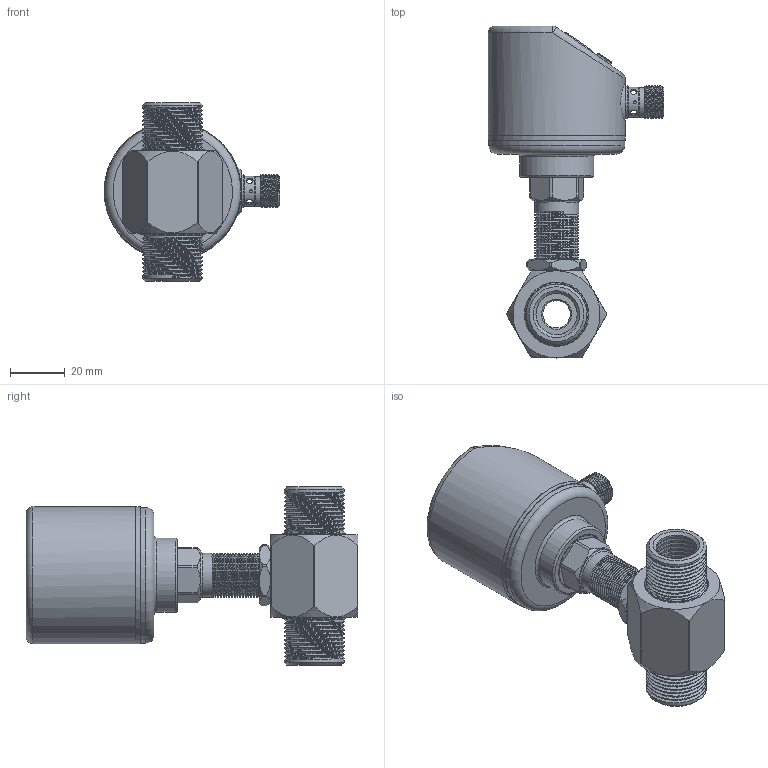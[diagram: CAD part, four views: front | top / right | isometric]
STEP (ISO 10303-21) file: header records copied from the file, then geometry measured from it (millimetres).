
FILE_DESCRIPTION (( 'STEP AP214' ), '1' );
FILE_NAME ('DN10俋杅珆.STEP', '2025-03-05T01:39:39', ( '' ), ( '' ), 'SwSTEP 2.0', 'SolidWorks 2020', '' );
FILE_SCHEMA (( 'AUTOMOTIVE_DESIGN' ));
Length unit declared in the file: millimetre
Products named in the file (11): 恦謫抻芛5; 揤薯珆尨欶; 偌瑩簽; DN10俋杅珆; 抻芛俋蹟恇G1-4; 蹟譫1; 翋极; 揤薯奻裔; PVC躇猾菜; 滅阨諉芛褲极1; 蚾饜极2
Assembly tree (12 placements, depth 3):
  DN10俋杅珆
    揤薯奻裔
    揤薯珆尨欶
    滅阨諉芛褲极1
    偌瑩簽  x3
    PVC躇猾菜
    抻芛俋蹟恇G1-4
    恦謫抻芛5
    蹟譫1
    蚾饜极2
      翋极
Bounding box: 64 x 120.9 x 65 mm (x, y, z)
Volume: 56242.8 mm3; surface area: 44797 mm2
Topology: 11 solids, 11 shells, 478 faces, 1146 edges, 746 vertices
Faces by surface type: cylinder 186, plane 174, cone 71, bspline 29, torus 14, sphere 4
Full cylindrical faces by diameter (mm): 1 x4, 1.2 x3, 1.8 x1, 2 x5, 2.5 x7, 2.8 x1, 4.3 x3, 4.5 x6, 7 x15, 7.2 x1, 8.5 x1, 9.75 x1, 10 x1, 10.5 x1, 10.7 x1, 10.8 x1, 10.9 x1, 11 x2, 12 x1, 14 x1, 14.3 x1, 14.4 x1, 14.8 x1, 15 x12, 16 x29, 17 x1, 17.34 x2, 17.4 x1, 21.24 x1, 21.3 x1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
Entity records: 27258 total; most frequent: CARTESIAN_POINT 18400, DIRECTION 1714, ORIENTED_EDGE 1518, EDGE_CURVE 759, AXIS2_PLACEMENT_3D 712, EDGE_LOOP 612, VERTEX_POINT 553, FACE_OUTER_BOUND 474
